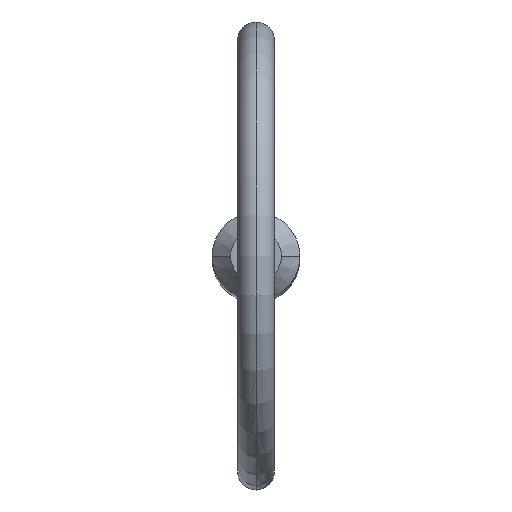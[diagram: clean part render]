
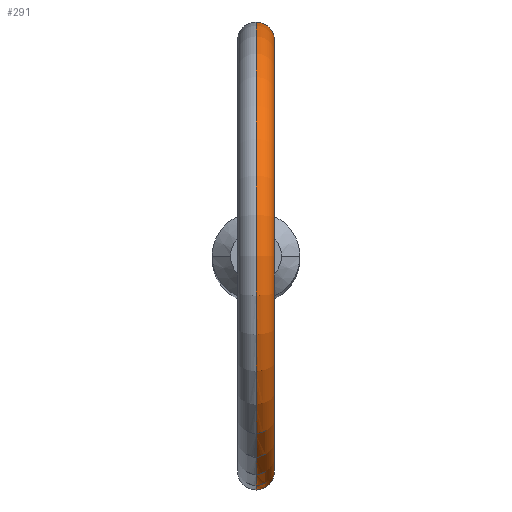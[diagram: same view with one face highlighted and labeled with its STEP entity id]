
A CAD part, top view. The second image highlights one B-rep face of the part: STEP entity #291.
In plain terms, the highlighted toroidal (fillet/blend) face has major radius 11.7 mm and minor radius 1 mm.
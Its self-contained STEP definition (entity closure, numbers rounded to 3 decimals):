
#5 = CARTESIAN_POINT ( 'NONE',  ( 0.134, -2.38, 78.468 ) ) ;
#10 = DIRECTION ( 'NONE',  ( 0., 0., -1. ) ) ;
#17 = CARTESIAN_POINT ( 'NONE',  ( 0., 0., 88.9 ) ) ;
#29 = CARTESIAN_POINT ( 'NONE',  ( 0., -2.38, 76.425 ) ) ;
#30 = CARTESIAN_POINT ( 'NONE',  ( 0.625, -2.299, 76.621 ) ) ;
#31 = FACE_OUTER_BOUND ( 'NONE', #209, .T. ) ;
#36 = CARTESIAN_POINT ( 'NONE',  ( 0.966, -2.176, 77.697 ) ) ;
#38 = ORIENTED_EDGE ( 'NONE', *, *, #338, .T. ) ;
#41 = CARTESIAN_POINT ( 'NONE',  ( 0., 0., 88.9 ) ) ;
#43 = AXIS2_PLACEMENT_3D ( 'NONE', #17, #276, #313 ) ;
#45 = CARTESIAN_POINT ( 'NONE',  ( 0.884, 2.21, 76.917 ) ) ;
#54 = B_SPLINE_CURVE_WITH_KNOTS ( 'NONE', 3,
 ( #296, #265, #163, #267, #410, #127, #45, #235, #339, #372, #376, #269, #449, #232, #123, #373, #308, #411 ),
 .UNSPECIFIED., .F., .F.,
 ( 4, 2, 2, 2, 2, 2, 2, 2, 4 ),
 ( 0.001, 0.001, 0.001, 0.002, 0.002, 0.003, 0.003, 0.003, 0.004 ),
 .UNSPECIFIED. ) ;
#71 = CARTESIAN_POINT ( 'NONE',  ( 0.793, -2.246, 78.052 ) ) ;
#80 = DIRECTION ( 'NONE',  ( 0., 0., -1. ) ) ;
#114 = CARTESIAN_POINT ( 'NONE',  ( 0., -2.38, 78.468 ) ) ;
#116 = CARTESIAN_POINT ( 'NONE',  ( 1.003, -2.158, 77.299 ) ) ;
#117 = CIRCLE ( 'NONE', #361, 12.7 ) ;
#123 = CARTESIAN_POINT ( 'NONE',  ( 0.509, 2.328, 78.324 ) ) ;
#127 = CARTESIAN_POINT ( 'NONE',  ( 0.811, 2.24, 76.806 ) ) ;
#149 = VERTEX_POINT ( 'NONE', #370 ) ;
#150 = CARTESIAN_POINT ( 'NONE',  ( 0.133, -2.38, 76.425 ) ) ;
#152 = CARTESIAN_POINT ( 'NONE',  ( 0., 2.38, 78.468 ) ) ;
#156 = VERTEX_POINT ( 'NONE', #29 ) ;
#161 = AXIS2_PLACEMENT_3D ( 'NONE', #405, #197, #10 ) ;
#163 = CARTESIAN_POINT ( 'NONE',  ( 0.267, 2.368, 76.45 ) ) ;
#184 = VERTEX_POINT ( 'NONE', #152 ) ;
#188 = CARTESIAN_POINT ( 'NONE',  ( 0.885, -2.21, 76.917 ) ) ;
#189 = CARTESIAN_POINT ( 'NONE',  ( 0., -2.38, 76.425 ) ) ;
#190 = EDGE_CURVE ( 'NONE', #467, #156, #463, .T. ) ;
#197 = DIRECTION ( 'NONE',  ( 1., 0., 0. ) ) ;
#209 = EDGE_LOOP ( 'NONE', ( #364, #38, #273, #249 ) ) ;
#232 = CARTESIAN_POINT ( 'NONE',  ( 0.614, 2.301, 78.245 ) ) ;
#235 = CARTESIAN_POINT ( 'NONE',  ( 0.981, 2.169, 77.162 ) ) ;
#236 = DIRECTION ( 'NONE',  ( 1., 0., 0. ) ) ;
#249 = ORIENTED_EDGE ( 'NONE', *, *, #404, .F. ) ;
#253 = CARTESIAN_POINT ( 'NONE',  ( 0.996, -2.162, 77.564 ) ) ;
#255 = CARTESIAN_POINT ( 'NONE',  ( 0.268, -2.368, 78.437 ) ) ;
#265 = CARTESIAN_POINT ( 'NONE',  ( 0.133, 2.38, 76.425 ) ) ;
#267 = CARTESIAN_POINT ( 'NONE',  ( 0.513, 2.327, 76.549 ) ) ;
#269 = CARTESIAN_POINT ( 'NONE',  ( 0.864, 2.218, 77.941 ) ) ;
#273 = ORIENTED_EDGE ( 'NONE', *, *, #190, .F. ) ;
#276 = DIRECTION ( 'NONE',  ( 1., 0., 0. ) ) ;
#291 = ADVANCED_FACE ( 'NONE', ( #31 ), #294, .T. ) ;
#292 = CARTESIAN_POINT ( 'NONE',  ( 0.268, -2.368, 76.451 ) ) ;
#294 = TOROIDAL_SURFACE ( 'NONE', #161, 11.7, 1. ) ;
#296 = CARTESIAN_POINT ( 'NONE',  ( 0., 2.38, 76.425 ) ) ;
#298 = CARTESIAN_POINT ( 'NONE',  ( 0.513, -2.327, 76.548 ) ) ;
#300 = EDGE_CURVE ( 'NONE', #149, #184, #54, .T. ) ;
#308 = CARTESIAN_POINT ( 'NONE',  ( 0.134, 2.38, 78.468 ) ) ;
#313 = DIRECTION ( 'NONE',  ( 0., 0., -1. ) ) ;
#338 = EDGE_CURVE ( 'NONE', #149, #156, #117, .T. ) ;
#339 = CARTESIAN_POINT ( 'NONE',  ( 1.003, 2.158, 77.297 ) ) ;
#361 = AXIS2_PLACEMENT_3D ( 'NONE', #41, #236, #80 ) ;
#364 = ORIENTED_EDGE ( 'NONE', *, *, #300, .F. ) ;
#368 = CIRCLE ( 'NONE', #43, 10.7 ) ;
#370 = CARTESIAN_POINT ( 'NONE',  ( 0., 2.38, 76.425 ) ) ;
#372 = CARTESIAN_POINT ( 'NONE',  ( 0.996, 2.162, 77.564 ) ) ;
#373 = CARTESIAN_POINT ( 'NONE',  ( 0.267, 2.368, 78.437 ) ) ;
#376 = CARTESIAN_POINT ( 'NONE',  ( 0.966, 2.176, 77.697 ) ) ;
#403 = CARTESIAN_POINT ( 'NONE',  ( 0.811, -2.24, 76.806 ) ) ;
#404 = EDGE_CURVE ( 'NONE', #184, #467, #368, .T. ) ;
#405 = CARTESIAN_POINT ( 'NONE',  ( 0., 0., 88.9 ) ) ;
#406 = CARTESIAN_POINT ( 'NONE',  ( 0.615, -2.301, 78.244 ) ) ;
#410 = CARTESIAN_POINT ( 'NONE',  ( 0.625, 2.299, 76.621 ) ) ;
#411 = CARTESIAN_POINT ( 'NONE',  ( 0., 2.38, 78.468 ) ) ;
#415 = CARTESIAN_POINT ( 'NONE',  ( 0., -2.38, 78.468 ) ) ;
#443 = CARTESIAN_POINT ( 'NONE',  ( 0.508, -2.328, 78.324 ) ) ;
#444 = CARTESIAN_POINT ( 'NONE',  ( 0.981, -2.169, 77.164 ) ) ;
#449 = CARTESIAN_POINT ( 'NONE',  ( 0.793, 2.246, 78.053 ) ) ;
#463 = B_SPLINE_CURVE_WITH_KNOTS ( 'NONE', 3,
 ( #114, #5, #255, #443, #406, #71, #474, #36, #253, #116, #444, #188, #403, #30, #298, #292, #150, #189 ),
 .UNSPECIFIED., .F., .F.,
 ( 4, 2, 2, 2, 2, 2, 2, 2, 4 ),
 ( 0.003, 0.003, 0.003, 0.004, 0.004, 0.005, 0.005, 0.005, 0.006 ),
 .UNSPECIFIED. ) ;
#467 = VERTEX_POINT ( 'NONE', #415 ) ;
#474 = CARTESIAN_POINT ( 'NONE',  ( 0.865, -2.218, 77.94 ) ) ;
